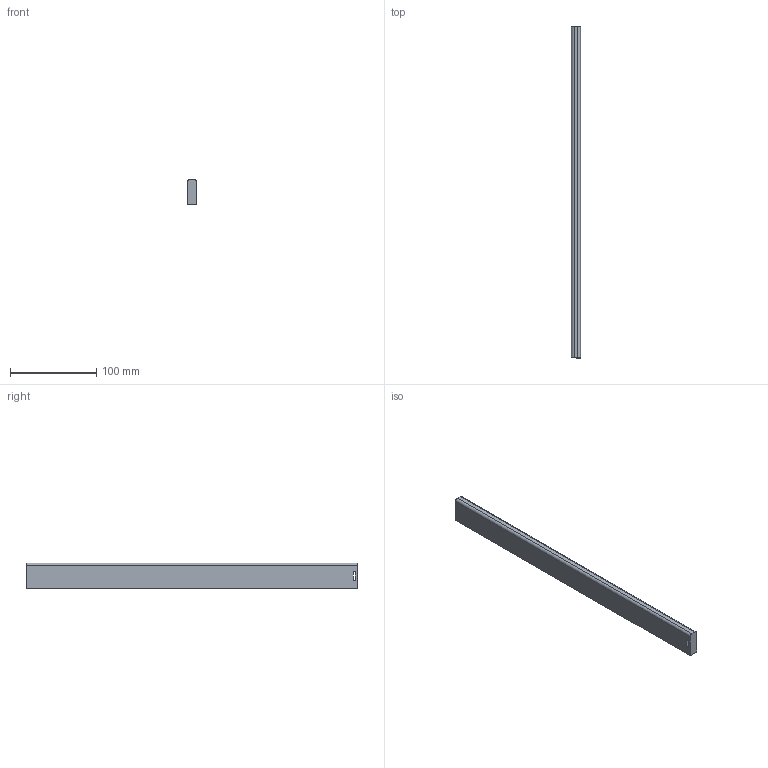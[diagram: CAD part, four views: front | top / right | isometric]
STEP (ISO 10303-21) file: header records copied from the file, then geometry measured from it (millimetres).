
FILE_DESCRIPTION (( 'STEP AP214' ), '1' );
FILE_NAME ('_Seitenreling_S760605500_RL385,5.step', '2010-09-06T14:51:26', ( 'grass' ), ( '' ), 'SwSTEP 2.0', 'SolidWorks 2010', '' );
FILE_SCHEMA (( 'AUTOMOTIVE_DESIGN' ));
Length unit declared in the file: millimetre
Products named in the file (1): _Seitenreling_S760605500_RL385,5
Bounding box: 10.5 x 385.5 x 30 mm (x, y, z)
Volume: 119704.7 mm3; surface area: 31067.2 mm2
Topology: 1 solids, 1 shells, 12 faces, 30 edges, 20 vertices
Faces by surface type: plane 8, cylinder 4
Entity records: 400 total; most frequent: DIRECTION 64, CARTESIAN_POINT 63, ORIENTED_EDGE 60, EDGE_CURVE 30, LINE 22, VECTOR 22, AXIS2_PLACEMENT_3D 21, VERTEX_POINT 20
